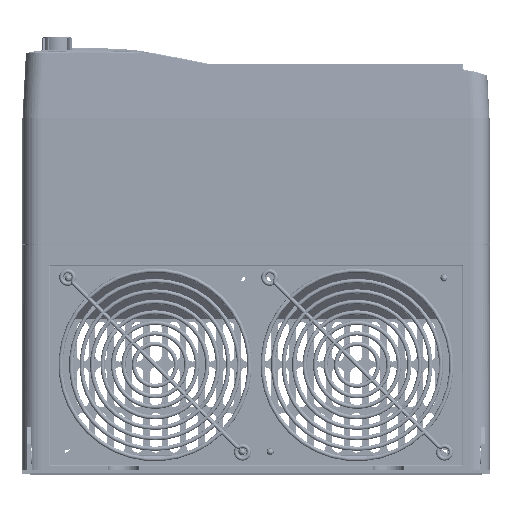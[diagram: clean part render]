
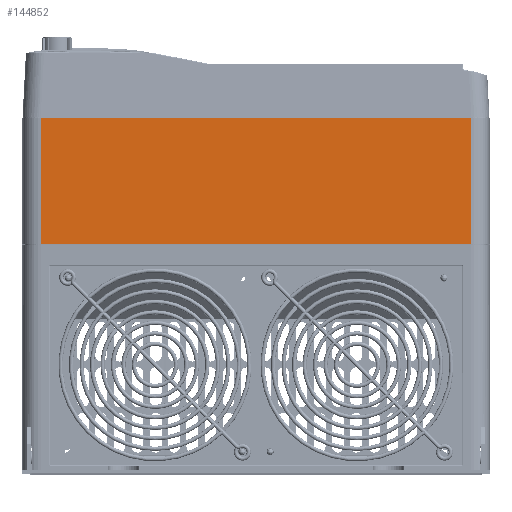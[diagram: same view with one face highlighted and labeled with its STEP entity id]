
A CAD part, top view. The second image highlights one B-rep face of the part: STEP entity #144852.
In plain terms, the highlighted planar face has unit normal (0, 0, 1) as drawn and (1, 0, 0) by its records, which use the part's own axes.
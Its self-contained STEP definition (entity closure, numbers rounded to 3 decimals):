
#113653=DIRECTION('',(0.,1.,0.));
#113654=VECTOR('',#113653,260.);
#113655=CARTESIAN_POINT('',(260.,-130.,0.));
#113656=LINE('',#113655,#113654);
#115883=DIRECTION('',(0.,0.,-1.));
#115884=VECTOR('',#115883,76.);
#115885=CARTESIAN_POINT('',(260.,-130.,76.));
#115886=LINE('',#115885,#115884);
#115887=DIRECTION('',(0.,1.,0.));
#115888=VECTOR('',#115887,260.);
#115889=CARTESIAN_POINT('',(260.,-130.,76.));
#115890=LINE('',#115889,#115888);
#115891=DIRECTION('',(0.,0.,1.));
#115892=VECTOR('',#115891,76.);
#115893=CARTESIAN_POINT('',(260.,130.,0.));
#115894=LINE('',#115893,#115892);
#135311=CARTESIAN_POINT('',(260.,-130.,0.));
#135312=VERTEX_POINT('',#135311);
#135313=CARTESIAN_POINT('',(260.,130.,0.));
#135314=VERTEX_POINT('',#135313);
#135435=CARTESIAN_POINT('',(260.,130.,76.));
#135436=VERTEX_POINT('',#135435);
#135437=CARTESIAN_POINT('',(260.,-130.,76.));
#135438=VERTEX_POINT('',#135437);
#144840=CARTESIAN_POINT('',(260.,-141.,0.));
#144841=DIRECTION('',(1.,0.,0.));
#144842=DIRECTION('',(0.,1.,0.));
#144843=AXIS2_PLACEMENT_3D('',#144840,#144841,#144842);
#144844=PLANE('',#144843);
#144845=ORIENTED_EDGE('',*,*,#144835,.F.);
#144846=ORIENTED_EDGE('',*,*,#142364,.T.);
#144848=ORIENTED_EDGE('',*,*,#144847,.F.);
#144849=ORIENTED_EDGE('',*,*,#142160,.F.);
#144850=EDGE_LOOP('',(#144845,#144846,#144848,#144849));
#144851=FACE_OUTER_BOUND('',#144850,.F.);
#144852=ADVANCED_FACE('',(#144851),#144844,.T.);
#142160=EDGE_CURVE('',#135312,#135314,#113656,.T.);
#142364=EDGE_CURVE('',#135438,#135436,#115890,.T.);
#144835=EDGE_CURVE('',#135438,#135312,#115886,.T.);
#144847=EDGE_CURVE('',#135314,#135436,#115894,.T.);
